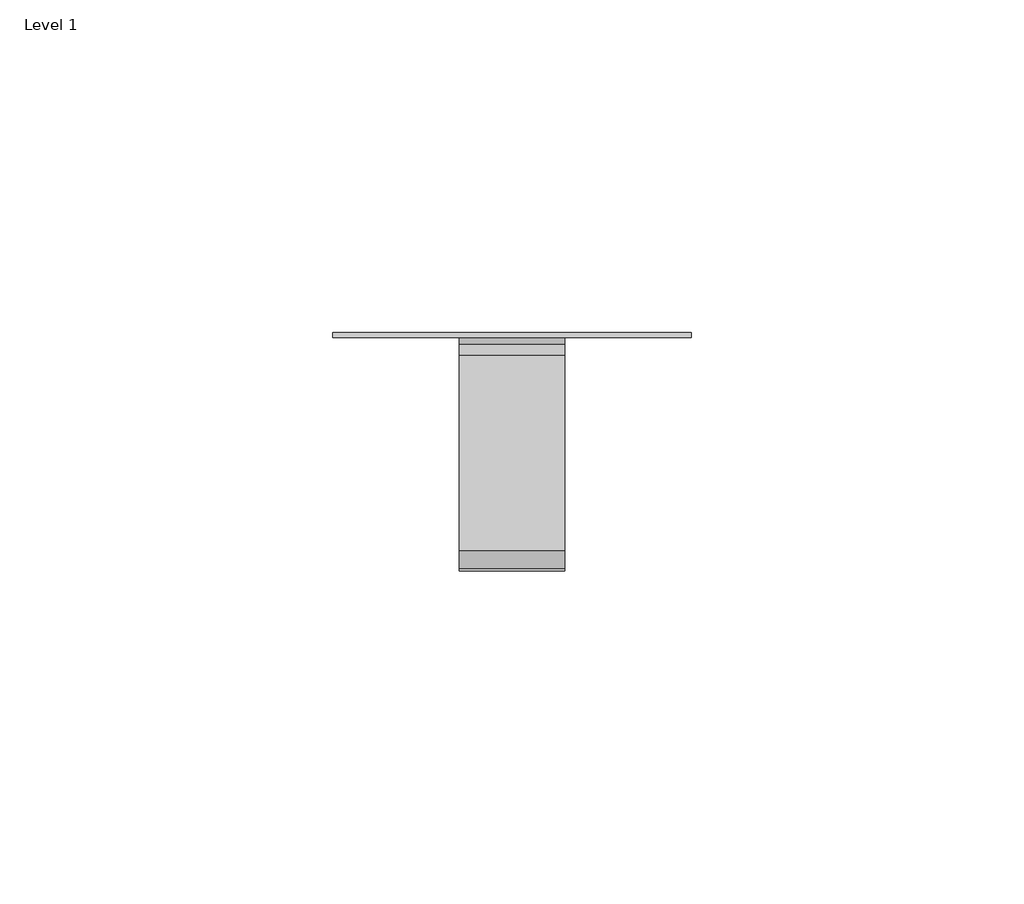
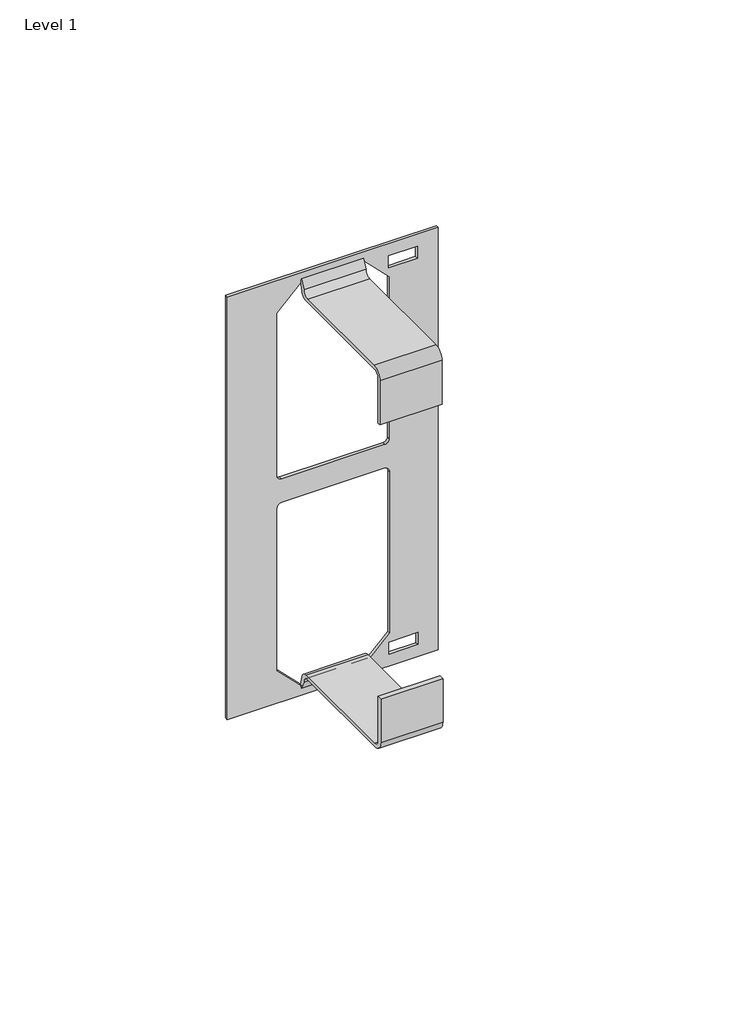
# One storey: 1 proxy.
"""IFC4 building model written with IfcOpenShell, lengths in millimetres."""

import ifcopenshell
import ifcopenshell.guid

model = None  # the IFC model being written
_history = None  # IfcOwnerHistory: only IFC2X3 demands one
_inside = {}  # id of a spatial element -> (the spatial element, [elements in it])
_under = {}  # id of a project, library or spatial element -> (it, [spatial elements below it])
_declared = {}  # id of a project -> (the project, [libraries it declares])
_typed = {}  # id of a type object -> (the type object, [elements of that type])
_made_of = {}  # id of a material, layer set ... -> (it, [elements and type objects made of it])


def new_model(schema):
    """Start an empty IFC model of exactly this schema.

    Asked for "IFC4X3", IfcOpenShell would pick the latest addendum, in which some entities
    have other attributes; the version numbers below select the first issue.
    IFC2X3 requires an IfcOwnerHistory on every rooted entity: one is made here for all.
    """
    global model, _history
    if schema == "IFC4X3":
        model = ifcopenshell.file(schema_version=(4, 3, 0, 0))
    else:
        model = ifcopenshell.file(schema=schema)
    _inside.clear()
    _under.clear()
    _declared.clear()
    _typed.clear()
    _made_of.clear()
    _history = None
    if model.schema == "IFC2X3":
        org = make("IfcOrganization", Name="unknown")
        user = make(
            "IfcPersonAndOrganization",
            ThePerson=make("IfcPerson", FamilyName="unknown"),
            TheOrganization=org,
        )
        app = make(
            "IfcApplication",
            ApplicationDeveloper=org,
            Version="unknown",
            ApplicationFullName="unknown",
            ApplicationIdentifier="unknown",
        )
        _history = make(
            "IfcOwnerHistory",
            OwningUser=user,
            OwningApplication=app,
            ChangeAction="ADDED",
            CreationDate=0,
        )
    return model


def make(cls, **values):
    """One entity of the class cls with the attributes given. An attribute that is None is left unset."""
    return model.create_entity(
        cls, **{name: value for name, value in values.items() if value is not None}
    )


def rooted(cls, **values):
    """An entity with a GlobalId (a new one), such as an element, a storey or a relation."""
    return make(cls, GlobalId=ifcopenshell.guid.new(), OwnerHistory=_history, **values)


def si_unit(unit_type, name, prefix=None):
    """IfcSIUnit, for example si_unit("LENGTHUNIT", "METRE", prefix="MILLI")."""
    return make("IfcSIUnit", UnitType=unit_type, Prefix=prefix, Name=name)


def assignment(units):
    """IfcUnitAssignment: the units of a project."""
    return None if units is None else make("IfcUnitAssignment", Units=units)


def point(xyz):
    """IfcCartesianPoint."""
    return None if xyz is None else make("IfcCartesianPoint", Coordinates=xyz)


def direction(xyz):
    """IfcDirection."""
    return None if xyz is None else make("IfcDirection", DirectionRatios=xyz)


def frame(location, z_axis=None, x_axis=None):
    """IfcAxis2Placement3D, a coordinate frame: its origin and axes. An axis left out is left unset."""
    return make(
        "IfcAxis2Placement3D",
        Location=point(location),
        Axis=direction(z_axis),
        RefDirection=direction(x_axis),
    )


def frame_2d(location, x_axis=None):
    """IfcAxis2Placement2D, a coordinate frame in the plane: its origin and x axis."""
    return make(
        "IfcAxis2Placement2D", Location=point(location), RefDirection=direction(x_axis)
    )


def origin():
    """The frame at (0, 0, 0) with its axes left unset."""
    return frame((0.0, 0.0, 0.0))


def place(relative_to, where):
    """IfcLocalPlacement: puts the frame where relative to a parent placement (None: the world)."""
    return make(
        "IfcLocalPlacement", PlacementRelTo=relative_to, RelativePlacement=where
    )


def context(
    kind, dimensions, precision=None, world=None, true_north=None, identifier=None
):
    """IfcGeometricRepresentationContext, for example the 3D "Model" context."""
    return make(
        "IfcGeometricRepresentationContext",
        ContextIdentifier=identifier,
        ContextType=kind,
        CoordinateSpaceDimension=dimensions,
        Precision=precision,
        WorldCoordinateSystem=world,
        TrueNorth=true_north,
    )


def project(units=None, contexts=None):
    """IfcProject with its units and contexts."""
    return rooted(
        "IfcProject",
        Name="project",
        RepresentationContexts=contexts,
        UnitsInContext=assignment(units),
    )


def spatial(cls, under=None, at=None, **own):
    """A site, building, storey or space (cls), placed at a placement, below another one or the project."""
    s = rooted(cls, ObjectPlacement=at, **own)
    if under is not None:
        _under.setdefault(under.id(), (under, []))[1].append(s)
    return s


def polyline(points):
    """IfcPolyline through the points."""
    return make("IfcPolyline", Points=[point(p) for p in points])


def circle_curve(where, radius):
    """IfcCircle in the frame where."""
    return make("IfcCircle", Position=where, Radius=radius)


def trimmed(basis, trim1, trim2, sense, master):
    """IfcTrimmedCurve: the piece of a basis curve between two trims."""
    return make(
        "IfcTrimmedCurve",
        BasisCurve=basis,
        Trim1=trim1,
        Trim2=trim2,
        SenseAgreement=sense,
        MasterRepresentation=master,
    )


def segment(curve, same_sense, transition):
    """IfcCompositeCurveSegment."""
    return make(
        "IfcCompositeCurveSegment",
        Transition=transition,
        SameSense=same_sense,
        ParentCurve=curve,
    )


def composite_curve(segments, self_intersect=None):
    """IfcCompositeCurve: segments joined end to end."""
    return make("IfcCompositeCurve", Segments=segments, SelfIntersect=self_intersect)


def outline(outer, holes=None, kind="AREA"):
    """IfcArbitraryClosedProfileDef: a profile drawn as a closed curve; with holes, ...WithVoids."""
    if holes is None:
        return make("IfcArbitraryClosedProfileDef", ProfileType=kind, OuterCurve=outer)
    return make(
        "IfcArbitraryProfileDefWithVoids",
        ProfileType=kind,
        OuterCurve=outer,
        InnerCurves=holes,
    )


def extrude(swept, where, along, depth):
    """IfcExtrudedAreaSolid: the profile swept, set in the frame where, extruded along a direction by depth."""
    return make(
        "IfcExtrudedAreaSolid",
        SweptArea=swept,
        Position=where,
        ExtrudedDirection=direction(along),
        Depth=depth,
    )


def shape(context_of_items, identifier, shape_type, items):
    """IfcShapeRepresentation: the items that make up one representation, for example the "Body"."""
    return make(
        "IfcShapeRepresentation",
        ContextOfItems=context_of_items,
        RepresentationIdentifier=identifier,
        RepresentationType=shape_type,
        Items=items,
    )


def source(mapping_origin, context_of_items, identifier, shape_type, items):
    """IfcRepresentationMap: a shape defined once, which mapped items show again and again."""
    return make(
        "IfcRepresentationMap",
        MappingOrigin=mapping_origin,
        MappedRepresentation=shape(context_of_items, identifier, shape_type, items),
    )


def transform(
    local_origin,
    x_axis=None,
    y_axis=None,
    z_axis=None,
    scale=None,
    scale2=None,
    scale3=None,
    uniform=True,
):
    """IfcCartesianTransformationOperator3D, or its non-uniform kind. x_axis, y_axis, z_axis: its Axis1, 2, 3."""
    if uniform:
        return make(
            "IfcCartesianTransformationOperator3D",
            Axis1=direction(x_axis),
            Axis2=direction(y_axis),
            LocalOrigin=point(local_origin),
            Scale=scale,
            Axis3=direction(z_axis),
        )
    return make(
        "IfcCartesianTransformationOperator3DnonUniform",
        Axis1=direction(x_axis),
        Axis2=direction(y_axis),
        LocalOrigin=point(local_origin),
        Scale=scale,
        Axis3=direction(z_axis),
        Scale2=scale2,
        Scale3=scale3,
    )


def mapped(mapping_source, mapping_target):
    """IfcMappedItem: shows the shape of a source again, moved by a transform."""
    return make(
        "IfcMappedItem", MappingSource=mapping_source, MappingTarget=mapping_target
    )


def made_of(thing, what):
    """Note that an element or type object is made of a material, layer set ...; save() writes the relation."""
    if what is not None:
        _made_of.setdefault(what.id(), (what, []))[1].append(thing)
    return thing


def element(
    cls,
    number,
    at=None,
    inside=None,
    cuts=None,
    type_object=None,
    material=None,
    context=None,
    identifier="Body",
    shape_type=None,
    held_by="IfcProductDefinitionShape",
    body=None,
    shapes=None,
    **own,
):
    """One element of the class cls, such as IfcWall. Its Tag is "e" and its number.

    at: its placement. inside: the storey or other place that contains it. cuts: it is an
    opening in that element (IfcRelVoidsElement). A single representation is given by context,
    identifier, shape_type and body (its items); several are given by shapes. held_by: the class
    of the entity that holds the representations. save() writes the other relations.
    """
    e = rooted(cls, Tag="e%d" % number, ObjectPlacement=at, **own)
    if body is not None:
        shapes = [shape(context, identifier, shape_type, body)]
    if shapes is not None:
        e.Representation = make(held_by, Representations=shapes)
    if inside is not None:
        _inside.setdefault(inside.id(), (inside, []))[1].append(e)
    if cuts is not None:
        rooted(
            "IfcRelVoidsElement", RelatingBuildingElement=cuts, RelatedOpeningElement=e
        )
    if type_object is not None:
        _typed.setdefault(type_object.id(), (type_object, []))[1].append(e)
    return made_of(e, material)


def aggregate(whole, parts):
    """IfcRelAggregates: a whole, such as a stair, and the parts it consists of."""
    return rooted("IfcRelAggregates", RelatingObject=whole, RelatedObjects=parts)


def save(model, path):
    """Write the relations noted so far, then the file.

    IfcRelAggregates (storeys below a building ...), IfcRelContainedInSpatialStructure (elements
    in a storey), IfcRelDefinesByType, IfcRelAssociatesMaterial and IfcRelDeclares: one each for
    every whole, place, type object, material and project.
    """
    for whole, parts in _under.values():
        aggregate(whole, parts)
    for where, things in _inside.values():
        rooted(
            "IfcRelContainedInSpatialStructure",
            RelatedElements=things,
            RelatingStructure=where,
        )
    for kind, things in _typed.values():
        rooted("IfcRelDefinesByType", RelatedObjects=things, RelatingType=kind)
    for what, things in _made_of.values():
        rooted("IfcRelAssociatesMaterial", RelatedObjects=things, RelatingMaterial=what)
    for by, libraries in _declared.values():
        rooted("IfcRelDeclares", RelatingContext=by, RelatedDefinitions=libraries)
    model.write(path)


def mounting_bracket_429aca47(model_context):
    return source(origin(), model_context, "Body", "SweptSolid", [
        extrude(outline(composite_curve([segment(trimmed(circle_curve(frame_2d((-2.6227652, 110.2665299)), 1.5979608), [point((-2.6227652, 108.6685691))], [point((-1.0248044, 110.2665299))], True, "CARTESIAN"), True, "CONTINUOUS"), segment(polyline([(-1.0248044, 110.2665299), (0.0, 112.5682783), (0.3857174, 111.7468658), (-0.099562, 109.3412875)]), True, "CONTINUOUS"), segment(trimmed(circle_curve(frame_2d((-1.9590957, 109.7164129)), 1.8969935), [point((-0.099562, 109.3412875))], [point((-1.9590957, 107.8194194))], False, "CARTESIAN"), True, "CONTINUOUS"), segment(polyline([(-1.9590957, 107.8194194), (-32.3643443, 107.8194194)]), True, "CONTINUOUS"), segment(trimmed(circle_curve(frame_2d((-32.3643443, 106.2385554)), 1.580864), [point((-32.3643443, 107.8194194))], [point((-33.9452083, 106.2385554))], True, "CARTESIAN"), True, "CONTINUOUS"), segment(polyline([(-33.9452083, 106.2385554), (-33.9452083, 94.1708601), (-34.7377201, 94.1708601), (-34.7377201, 106.0437859)]), True, "CONTINUOUS"), segment(trimmed(circle_curve(frame_2d((-32.1129369, 106.0437859)), 2.6247832), [point((-34.7377201, 106.0437859))], [point((-32.1129369, 108.6685691))], False, "CARTESIAN"), True, "CONTINUOUS"), segment(polyline([(-32.1129369, 108.6685691), (-2.6227652, 108.6685691)]), True, "CONTINUOUS")], self_intersect=False)), frame((-7.9375, 0.0, 0.0), z_axis=(1.0, 0.0, 0.0), x_axis=(0.0, 1.0, 0.0)), (0.0, 0.0, 1.0), 15.875),
        extrude(outline(composite_curve([segment(polyline([(-2.6227652, 5.699177), (-32.4986543, 5.699177)]), True, "CONTINUOUS"), segment(trimmed(circle_curve(frame_2d((-32.4986543, 8.3239603)), 2.6247832), [point((-32.4986543, 5.699177))], [point((-35.1234375, 8.3239603))], False, "CARTESIAN"), True, "CONTINUOUS"), segment(polyline([(-35.1234375, 8.3239603), (-35.1234375, 20.196886), (-33.9452083, 20.196886), (-33.9452083, 8.1291907)]), True, "CONTINUOUS"), segment(trimmed(circle_curve(frame_2d((-32.3643443, 8.1291907)), 1.580864), [point((-33.9452083, 8.1291907))], [point((-32.3643443, 6.5483268))], True, "CARTESIAN"), True, "CONTINUOUS"), segment(polyline([(-32.3643443, 6.5483268), (-1.9590957, 6.5483268)]), True, "CONTINUOUS"), segment(trimmed(circle_curve(frame_2d((-1.9590957, 4.6513333)), 1.8969935), [point((-1.9590957, 6.5483268))], [point((-0.099562, 5.0264586))], False, "CARTESIAN"), True, "CONTINUOUS"), segment(polyline([(-0.099562, 5.0264586), (0.3857174, 2.6208804), (0.0, 1.7994679), (-1.0248044, 4.1012162)]), True, "CONTINUOUS"), segment(trimmed(circle_curve(frame_2d((-2.6227652, 4.1012162)), 1.5979608), [point((-1.0248044, 4.1012162))], [point((-2.6227652, 5.699177))], True, "CARTESIAN"), True, "CONTINUOUS")], self_intersect=False)), frame((-7.9375, 0.0, 0.0), z_axis=(1.0, 0.0, 0.0), x_axis=(0.0, 1.0, 0.0)), (0.0, 0.0, 1.0), 15.875),
        extrude(outline(polyline([(114.3, 26.9875), (114.3, -26.9875), (0.0, -26.9875), (0.0, 26.9875), (114.3, 26.9875)]), holes=[composite_curve([segment(polyline([(111.7468658, -8.0086395), (111.7468658, 8.0958737), (105.3684264, 14.4743131), (61.5542986, 14.4743131)]), True, "CONTINUOUS"), segment(trimmed(circle_curve(frame_2d((61.5542986, 13.2836881)), 1.190625), [point((61.5542986, 14.4743131))], [point((60.3636736, 13.2836881))], True, "CARTESIAN"), True, "CONTINUOUS"), segment(polyline([(60.3636736, 13.2836881), (60.3636736, -13.0809133)]), True, "CONTINUOUS"), segment(trimmed(circle_curve(frame_2d((61.5542986, -13.0809133)), 1.190625), [point((60.3636736, -13.0809133))], [point((61.5542986, -14.2715383))], True, "CARTESIAN"), True, "CONTINUOUS"), segment(polyline([(61.5542986, -14.2715383), (105.483967, -14.2715383), (111.7468658, -8.0086395)]), True, "CONTINUOUS")], self_intersect=False), polyline([(111.0228534, 14.2843618), (111.0228534, 21.7269722), (107.7966933, 21.7269722), (107.7966933, 14.2843618), (111.0228534, 14.2843618)]), composite_curve([segment(trimmed(circle_curve(frame_2d((52.4999883, 13.1393624)), 1.4363381), [point((53.9363264, 13.1393624))], [point((52.4999883, 14.5757005))], True, "CARTESIAN"), True, "CONTINUOUS"), segment(polyline([(52.4999883, 14.5757005), (8.9315736, 14.5757005), (2.5531342, 8.1972611), (2.5531342, -7.9072521), (8.816033, -14.1701509), (52.7027631, -14.1701509)]), True, "CONTINUOUS"), segment(trimmed(circle_curve(frame_2d((52.7027631, -12.9365876)), 1.2335634), [point((52.7027631, -14.1701509))], [point((53.9363264, -12.9365876))], True, "CARTESIAN"), True, "CONTINUOUS"), segment(polyline([(53.9363264, -12.9365876), (53.9363264, 13.1393624)]), True, "CONTINUOUS")], self_intersect=False), polyline([(6.5033067, 14.3857492), (6.5033067, 21.8283596), (3.2771466, 21.8283596), (3.2771466, 14.3857492), (6.5033067, 14.3857492)])]), frame((0.0, 0.0, 0.0), z_axis=(0.0, 1.0, 0.0), x_axis=(0.0, 0.0, 1.0)), (0.0, 0.0, 1.0), 0.79375),
    ])


model = new_model("IFC4")

# Units and contexts
model_context = context("Model", 3, world=origin())
ifc_project = project(units=[si_unit("LENGTHUNIT", "METRE", prefix="MILLI")], contexts=[model_context])

# Site, building, storey
site = spatial("IfcSite", under=ifc_project)
building = spatial("IfcBuilding", under=site)
storey = spatial("IfcBuildingStorey", under=building, Name="Level 1", Elevation=0.0)

# Proxy
placement = place(None, origin())
mounting_bracket_shape = mounting_bracket_429aca47(model_context)
element("IfcBuildingElementProxy", 1, Name="Accessory-Wiremold-Receptacle_Mounting_Bracket : Mounting Bracket", ObjectType="Accessory-Wiremold-Receptacle_Mounting_Bracket : Mounting Bracket", at=placement, inside=storey, context=model_context, shape_type="MappedRepresentation", body=[
    mapped(mounting_bracket_shape, transform((3579.4473575, 1970.2715466, 0.0), x_axis=(1.0, 0.0, 0.0), y_axis=(0.0, 1.0, 0.0), z_axis=(0.0, 0.0, 1.0))),
])

save(model, "model.ifc")
